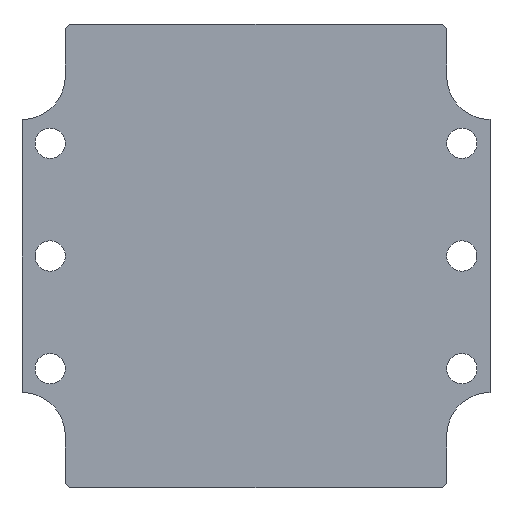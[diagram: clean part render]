
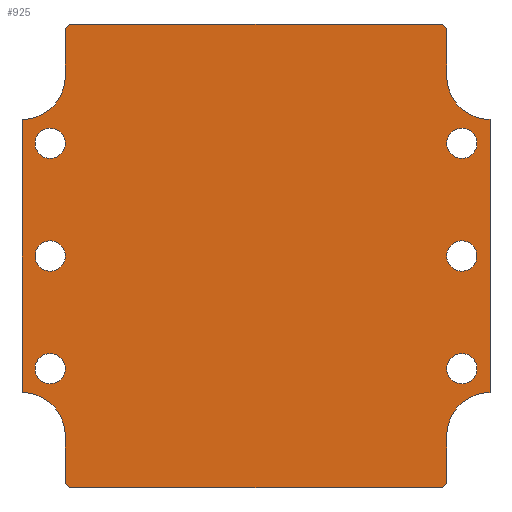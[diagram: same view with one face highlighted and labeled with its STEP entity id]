
A CAD part, top view. The second image highlights one B-rep face of the part: STEP entity #925.
In plain terms, the highlighted planar face has unit normal (0, 0, 1).
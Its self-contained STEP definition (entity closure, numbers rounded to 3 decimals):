
#49=CARTESIAN_POINT('',(65.825,59.216,0.5));
#50=VERTEX_POINT('',#49);
#51=CARTESIAN_POINT('',(66.825,58.216,0.5));
#52=VERTEX_POINT('',#51);
#53=CARTESIAN_POINT('',(65.825,59.216,0.5));
#54=DIRECTION('',(0.707,-0.707,0.0));
#55=VECTOR('',#54,1.414);
#56=LINE('',#53,#55);
#57=EDGE_CURVE('',#50,#52,#56,.T.);
#98=CARTESIAN_POINT('',(-20.175,59.216,0.5));
#99=VERTEX_POINT('',#98);
#106=CARTESIAN_POINT('',(-20.175,59.216,0.5));
#107=DIRECTION('',(1.0,0.0,0.0));
#108=VECTOR('',#107,86.);
#109=LINE('',#106,#108);
#110=EDGE_CURVE('',#99,#50,#109,.T.);
#310=CARTESIAN_POINT('',(-20.175,-47.784,0.5));
#311=VERTEX_POINT('',#310);
#312=CARTESIAN_POINT('',(-21.175,-46.784,0.5));
#313=VERTEX_POINT('',#312);
#314=CARTESIAN_POINT('',(-20.175,-47.784,0.5));
#315=DIRECTION('',(-0.707,0.707,0.0));
#316=VECTOR('',#315,1.414);
#317=LINE('',#314,#316);
#318=EDGE_CURVE('',#311,#313,#317,.T.);
#343=CARTESIAN_POINT('',(65.825,-47.784,0.5));
#344=VERTEX_POINT('',#343);
#351=CARTESIAN_POINT('',(65.825,-47.784,0.5));
#352=DIRECTION('',(-1.0,0.0,0.0));
#353=VECTOR('',#352,86.0);
#354=LINE('',#351,#353);
#355=EDGE_CURVE('',#344,#311,#354,.T.);
#365=CARTESIAN_POINT('',(66.825,-46.784,0.5));
#366=VERTEX_POINT('',#365);
#367=CARTESIAN_POINT('',(66.825,-46.784,0.5));
#368=DIRECTION('',(-0.707,-0.707,0.0));
#369=VECTOR('',#368,1.414);
#370=LINE('',#367,#369);
#371=EDGE_CURVE('',#366,#344,#370,.T.);
#391=CARTESIAN_POINT('',(66.825,-35.784,0.5));
#392=VERTEX_POINT('',#391);
#399=CARTESIAN_POINT('',(66.825,-35.784,0.5));
#400=DIRECTION('',(0.0,-1.0,0.0));
#401=VECTOR('',#400,11.);
#402=LINE('',#399,#401);
#403=EDGE_CURVE('',#392,#366,#402,.T.);
#413=CARTESIAN_POINT('',(-21.175,58.216,0.5));
#414=VERTEX_POINT('',#413);
#415=CARTESIAN_POINT('',(-21.175,58.216,0.5));
#416=DIRECTION('',(0.707,0.707,0.0));
#417=VECTOR('',#416,1.414);
#418=LINE('',#415,#417);
#419=EDGE_CURVE('',#414,#99,#418,.T.);
#461=CARTESIAN_POINT('',(73.825,31.716,0.5));
#462=VERTEX_POINT('',#461);
#463=CARTESIAN_POINT('',(70.325,31.716,0.5));
#464=DIRECTION('',(0.0,0.0,-1.0));
#465=DIRECTION('',(1.0,0.0,0.0));
#466=AXIS2_PLACEMENT_3D('',#463,#464,#465);
#467=CIRCLE('',#466,3.5);
#468=EDGE_CURVE('',#462,#462,#467,.T.);
#502=CARTESIAN_POINT('',(-21.175,-20.284,0.5));
#503=VERTEX_POINT('',#502);
#504=CARTESIAN_POINT('',(-24.675,-20.284,0.5));
#505=DIRECTION('',(0.0,0.0,-1.0));
#506=DIRECTION('',(1.0,0.0,0.0));
#507=AXIS2_PLACEMENT_3D('',#504,#505,#506);
#508=CIRCLE('',#507,3.5);
#509=EDGE_CURVE('',#503,#503,#508,.T.);
#543=CARTESIAN_POINT('',(-21.175,5.716,0.5));
#544=VERTEX_POINT('',#543);
#545=CARTESIAN_POINT('',(-24.675,5.716,0.5));
#546=DIRECTION('',(0.0,0.0,-1.0));
#547=DIRECTION('',(1.0,0.0,0.0));
#548=AXIS2_PLACEMENT_3D('',#545,#546,#547);
#549=CIRCLE('',#548,3.5);
#550=EDGE_CURVE('',#544,#544,#549,.T.);
#584=CARTESIAN_POINT('',(73.825,5.716,0.5));
#585=VERTEX_POINT('',#584);
#586=CARTESIAN_POINT('',(70.325,5.716,0.5));
#587=DIRECTION('',(0.0,0.0,-1.0));
#588=DIRECTION('',(1.0,0.0,0.0));
#589=AXIS2_PLACEMENT_3D('',#586,#587,#588);
#590=CIRCLE('',#589,3.5);
#591=EDGE_CURVE('',#585,#585,#590,.T.);
#625=CARTESIAN_POINT('',(73.825,-20.284,0.5));
#626=VERTEX_POINT('',#625);
#627=CARTESIAN_POINT('',(70.325,-20.284,0.5));
#628=DIRECTION('',(0.0,0.0,-1.0));
#629=DIRECTION('',(1.0,0.0,0.0));
#630=AXIS2_PLACEMENT_3D('',#627,#628,#629);
#631=CIRCLE('',#630,3.5);
#632=EDGE_CURVE('',#626,#626,#631,.T.);
#666=CARTESIAN_POINT('',(-21.175,31.716,0.5));
#667=VERTEX_POINT('',#666);
#668=CARTESIAN_POINT('',(-24.675,31.716,0.5));
#669=DIRECTION('',(0.0,0.0,-1.0));
#670=DIRECTION('',(1.0,0.0,0.0));
#671=AXIS2_PLACEMENT_3D('',#668,#669,#670);
#672=CIRCLE('',#671,3.5);
#673=EDGE_CURVE('',#667,#667,#672,.T.);
#683=CARTESIAN_POINT('',(66.825,47.216,0.5));
#684=VERTEX_POINT('',#683);
#685=CARTESIAN_POINT('',(76.825,37.216,0.5));
#686=VERTEX_POINT('',#685);
#687=CARTESIAN_POINT('',(76.825,47.216,0.5));
#688=DIRECTION('',(0.0,0.0,1.0));
#689=DIRECTION('',(1.0,0.0,0.0));
#690=AXIS2_PLACEMENT_3D('',#687,#688,#689);
#691=CIRCLE('',#690,10.0);
#692=EDGE_CURVE('',#684,#686,#691,.T.);
#715=CARTESIAN_POINT('',(76.825,-25.784,0.5));
#716=VERTEX_POINT('',#715);
#717=CARTESIAN_POINT('',(76.825,37.216,0.5));
#718=DIRECTION('',(0.0,-1.0,0.0));
#719=VECTOR('',#718,63.);
#720=LINE('',#717,#719);
#721=EDGE_CURVE('',#686,#716,#720,.T.);
#739=CARTESIAN_POINT('',(76.825,-35.784,0.5));
#740=DIRECTION('',(0.0,0.0,1.0));
#741=DIRECTION('',(0.0,-1.0,0.0));
#742=AXIS2_PLACEMENT_3D('',#739,#740,#741);
#743=CIRCLE('',#742,10.0);
#744=EDGE_CURVE('',#716,#392,#743,.T.);
#758=CARTESIAN_POINT('',(-21.175,-35.784,0.5));
#759=VERTEX_POINT('',#758);
#760=CARTESIAN_POINT('',(-21.175,-46.784,0.5));
#761=DIRECTION('',(0.0,1.0,0.0));
#762=VECTOR('',#761,11.);
#763=LINE('',#760,#762);
#764=EDGE_CURVE('',#313,#759,#763,.T.);
#781=CARTESIAN_POINT('',(-31.175,-25.784,0.5));
#782=VERTEX_POINT('',#781);
#783=CARTESIAN_POINT('',(-31.175,-35.784,0.5));
#784=DIRECTION('',(0.0,0.0,1.0));
#785=DIRECTION('',(-1.0,0.0,0.0));
#786=AXIS2_PLACEMENT_3D('',#783,#784,#785);
#787=CIRCLE('',#786,10.0);
#788=EDGE_CURVE('',#759,#782,#787,.T.);
#806=CARTESIAN_POINT('',(-31.175,37.216,0.5));
#807=VERTEX_POINT('',#806);
#808=CARTESIAN_POINT('',(-31.175,-25.784,0.5));
#809=DIRECTION('',(0.0,1.0,0.0));
#810=VECTOR('',#809,63.0);
#811=LINE('',#808,#810);
#812=EDGE_CURVE('',#782,#807,#811,.T.);
#830=CARTESIAN_POINT('',(-21.175,47.216,0.5));
#831=VERTEX_POINT('',#830);
#832=CARTESIAN_POINT('',(-31.175,47.216,0.5));
#833=DIRECTION('',(0.0,0.0,1.0));
#834=DIRECTION('',(0.0,1.0,0.0));
#835=AXIS2_PLACEMENT_3D('',#832,#833,#834);
#836=CIRCLE('',#835,10.0);
#837=EDGE_CURVE('',#807,#831,#836,.T.);
#858=CARTESIAN_POINT('',(-21.175,47.216,0.5));
#859=DIRECTION('',(0.0,1.0,0.0));
#860=VECTOR('',#859,11.);
#861=LINE('',#858,#860);
#862=EDGE_CURVE('',#831,#414,#861,.T.);
#873=CARTESIAN_POINT('',(66.825,58.216,0.5));
#874=DIRECTION('',(0.0,-1.0,0.0));
#875=VECTOR('',#874,11.);
#876=LINE('',#873,#875);
#877=EDGE_CURVE('',#52,#684,#876,.T.);
#884=CARTESIAN_POINT('',(22.825,5.716,0.5));
#885=DIRECTION('',(0.0,0.0,1.0));
#886=DIRECTION('',(1.0,0.0,0.0));
#887=AXIS2_PLACEMENT_3D('',#884,#885,#886);
#888=PLANE('',#887);
#889=ORIENTED_EDGE('',*,*,#57,.F.);
#890=ORIENTED_EDGE('',*,*,#110,.F.);
#891=ORIENTED_EDGE('',*,*,#419,.F.);
#892=ORIENTED_EDGE('',*,*,#862,.F.);
#893=ORIENTED_EDGE('',*,*,#837,.F.);
#894=ORIENTED_EDGE('',*,*,#812,.F.);
#895=ORIENTED_EDGE('',*,*,#788,.F.);
#896=ORIENTED_EDGE('',*,*,#764,.F.);
#897=ORIENTED_EDGE('',*,*,#318,.F.);
#898=ORIENTED_EDGE('',*,*,#355,.F.);
#899=ORIENTED_EDGE('',*,*,#371,.F.);
#900=ORIENTED_EDGE('',*,*,#403,.F.);
#901=ORIENTED_EDGE('',*,*,#744,.F.);
#902=ORIENTED_EDGE('',*,*,#721,.F.);
#903=ORIENTED_EDGE('',*,*,#692,.F.);
#904=ORIENTED_EDGE('',*,*,#877,.F.);
#905=EDGE_LOOP('',(#889,#890,#891,#892,#893,#894,#895,#896,#897,#898,#899,#900,#901,#902,#903,#904));
#906=FACE_OUTER_BOUND('',#905,.T.);
#907=ORIENTED_EDGE('',*,*,#468,.T.);
#908=EDGE_LOOP('',(#907));
#909=FACE_BOUND('',#908,.T.);
#910=ORIENTED_EDGE('',*,*,#509,.T.);
#911=EDGE_LOOP('',(#910));
#912=FACE_BOUND('',#911,.T.);
#913=ORIENTED_EDGE('',*,*,#550,.T.);
#914=EDGE_LOOP('',(#913));
#915=FACE_BOUND('',#914,.T.);
#916=ORIENTED_EDGE('',*,*,#591,.T.);
#917=EDGE_LOOP('',(#916));
#918=FACE_BOUND('',#917,.T.);
#919=ORIENTED_EDGE('',*,*,#632,.T.);
#920=EDGE_LOOP('',(#919));
#921=FACE_BOUND('',#920,.T.);
#922=ORIENTED_EDGE('',*,*,#673,.T.);
#923=EDGE_LOOP('',(#922));
#924=FACE_BOUND('',#923,.T.);
#925=ADVANCED_FACE('',(#906,#909,#912,#915,#918,#921,#924),#888,.T.);
